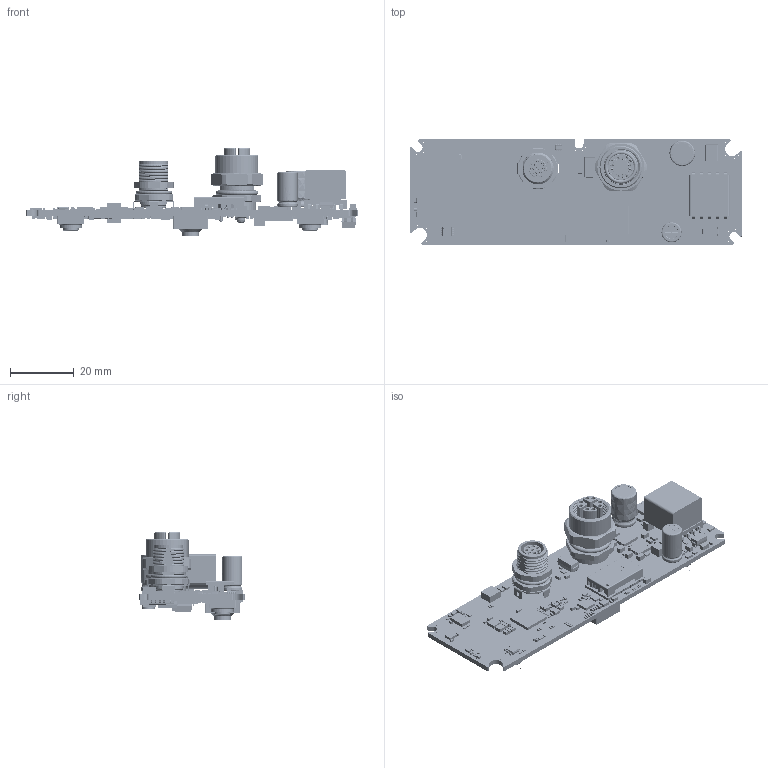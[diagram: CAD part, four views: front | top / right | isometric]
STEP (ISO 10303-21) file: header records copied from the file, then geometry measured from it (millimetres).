
FILE_DESCRIPTION(('Open CASCADE Model'),'2;1');
FILE_NAME('Open CASCADE Shape Model','2022-08-11T14:21:48',('Author'),( 'Open CASCADE'),'Open CASCADE STEP processor 6.8','Open CASCADE 6.8' ,'Unknown');
FILE_SCHEMA(('AUTOMOTIVE_DESIGN { 1 0 10303 214 1 1 1 1 }'));
Length unit declared in the file: millimetre
Products named in the file (721): PCB; Board; Open CASCADE STEP translator 6.8 5.1.1; C102; 7099193680; Body; Open_CASCADE_STEP_translator_6.8_4.1.1; Lead; R69; 6215970000; Extruded; 6215969840; R68; 6215969200; 6215969040; R67; R12; 7098819024; 7098818864; R8; D2; Belago1.1_v3; User_Library-SC70-6; 6680440576; Extruded_(12); 6680440416; Extruded_(13); 6680440256; Extruded_(14); PMSILPlus_v1_v2; U8; BMI270--3DModel-STEP-56544; C101; 6215969600; 6215966480; C100; 6215969440; C173; 6215966880; 6215966720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
Assembly tree (1799 placements, depth 6):
  PCB
    Board
      Open CASCADE STEP translator 6.8 5.1.1
    C102
      7099193680
        Body
          Open_CASCADE_STEP_translator_6.8_4.1.1
        Lead  x2
    R69
      6215970000  x2
        Extruded
      6215969840
        Extruded
    R68
      6215969200  x2
        Extruded
      6215969040
        Extruded
    R67
      6215969200  x2
        Extruded
      6215969040
        Extruded
    R12
      7098819024  x2
        Extruded
      7098818864
        Extruded
    R8
      7098819024  x2
        Extruded
      7098818864
        Extruded
    D2
      Belago1.1_v3
        D2
          User_Library-SC70-6
          6680440576
            Extruded_(12)
          6680440416
            Extruded_(13)
          6680440256
            Extruded_(14)
        PMSILPlus_v1_v2
    U8
      BMI270--3DModel-STEP-56544
    C101
      6215969600
        Extruded
      6215966480  x2
        Extruded
    C100
      6215969600
        Extruded
      6215969440  x2
        Extruded
    C173
      6215966880
        Extruded
      6215966720  x2
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Bounding box: 104 x 33 x 27.35 mm (x, y, z)
Volume: 13185.4 mm3; surface area: 25788.5 mm2
Topology: 1624 solids, 1649 shells, 22622 faces, 55114 edges, 35948 vertices
Faces by surface type: plane 13389, bspline 6169, cylinder 2277, torus 458, sphere 222, cone 87, extrusion 16, revolution 4
Full cylindrical faces by diameter (mm): 0.05 x232, 0.064 x2, 0.08 x1, 0.1 x184, 0.122 x1, 0.15 x1, 0.17 x3, 0.2 x1, 0.202 x35, 0.4 x1, 0.5 x2, 0.8 x20, 1 x1, 1.2 x3, 4.5 x2, 4.6 x1, 8.481 x1
Entity records: 382959 total; most frequent: CARTESIAN_POINT 103528, ORIENTED_EDGE 51654, DIRECTION 44956, EDGE_CURVE 25862, VECTOR 18442, LINE 18426, VERTEX_POINT 16775, AXIS2_PLACEMENT_3D 13255
